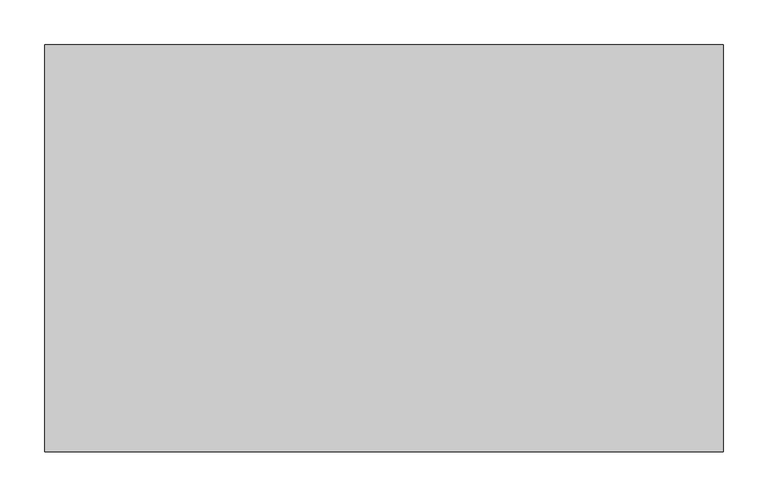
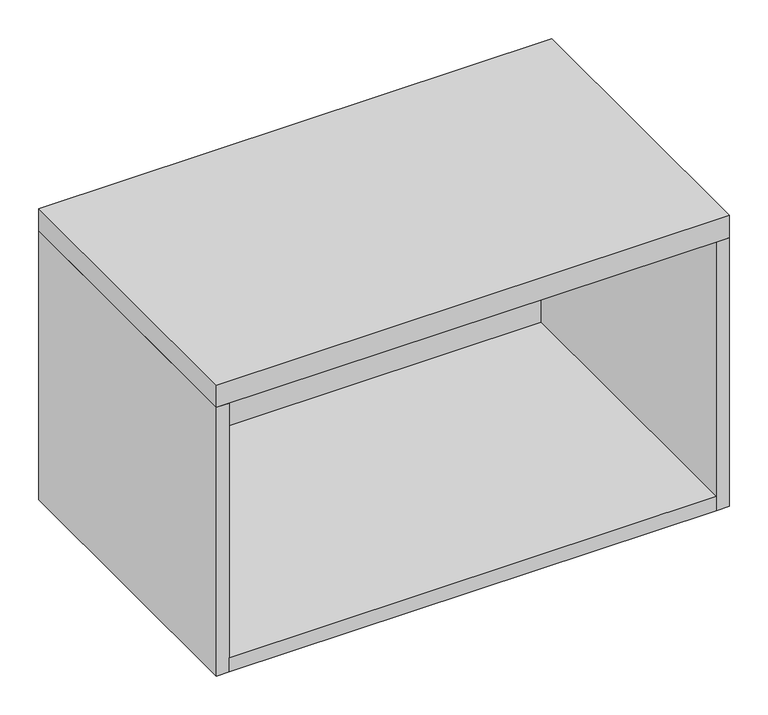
"""IFC4 building model written with IfcOpenShell, lengths in millimetres: furniture geometry, Steelcase - 900 Series - Storage - Overfile Cabinet - Flush Steel : Open - 30W x 18H."""

from ifc_helpers import new_model, si_unit, frame, origin, place, context, project, spatial, polyline, outline, extrude, source, transform, mapped, element, save


def furniture_297ea90a(model_context):
    return source(origin(), model_context, "Body", "SweptSolid", [
        extrude(outline(polyline([(742.6960184, -6.3500002), (742.6960184, -457.2), (19.3039998, -457.2), (19.3039998, -6.3500002), (742.6960184, -6.3500002)])), frame((0.0, 0.0, 1589.278), z_axis=(0.0, 0.0, 1.0), x_axis=(1.0, 0.0, 0.0)), (0.0, 0.0, 1.0), 22.2249516),
        extrude(outline(polyline([(762.0, 0.0), (762.0, -457.2), (0.0, -457.2), (0.0, 0.0), (762.0, 0.0)])), frame((0.0, 0.0, 2011.5529516), z_axis=(0.0, 0.0, 1.0), x_axis=(1.0, 0.0, 0.0)), (0.0, 0.0, 1.0), 34.9250484),
        extrude(outline(polyline([(742.6960184, -6.3500002), (19.3039998, -6.3500002), (19.3039998, -457.2), (0.0, -457.2), (0.0, 0.0), (762.0, 0.0), (762.0, -457.2), (742.6960184, -457.2), (742.6960184, -6.3500002)])), frame((0.0, 0.0, 1589.278), z_axis=(0.0, 0.0, 1.0), x_axis=(1.0, 0.0, 0.0)), (0.0, 0.0, 1.0), 422.2749516),
    ])


if __name__ == "__main__":
    model = new_model("IFC4")
    model_context = context("Model", 3, world=origin())
    ifc_project = project(units=[si_unit("LENGTHUNIT", "METRE", prefix="MILLI")], contexts=[model_context])
    site = spatial("IfcSite", under=ifc_project)
    building = spatial("IfcBuilding", under=site)
    placement = place(None, origin())
    furniture_shape = furniture_297ea90a(model_context)
    element("IfcFurniture", 1, ObjectType="Steelcase - 900 Series - Storage - Overfile Cabinet - Flush Steel : Open - 30W x 18H", at=placement, inside=building, context=model_context, shape_type="MappedRepresentation", body=[
        mapped(furniture_shape, transform((0.0, 0.0, 0.0), x_axis=(1.0, 0.0, 0.0), y_axis=(0.0, 1.0, 0.0), z_axis=(0.0, 0.0, 1.0))),
    ])
    save(model, "model.ifc")
